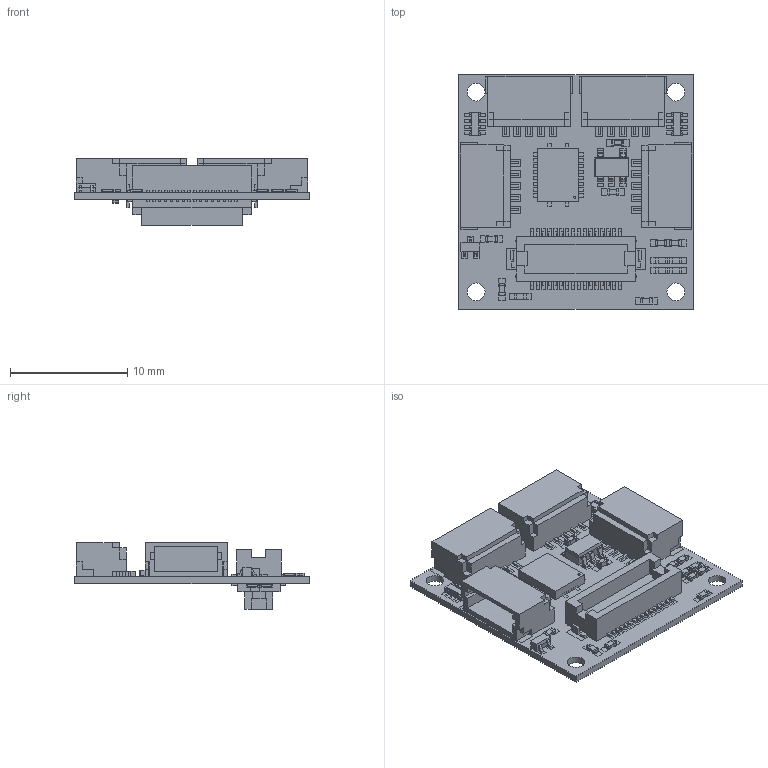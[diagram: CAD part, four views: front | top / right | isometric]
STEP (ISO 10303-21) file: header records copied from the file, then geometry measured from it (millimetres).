
FILE_DESCRIPTION(('FreeCAD Model'),'2;1');
FILE_NAME('/home/devy/MEGA/TinyCircuits/Assets/BoardsANDBoardModels_2/Shields/TinyCircuits-TinyShield-Wireling_Adapter-ASD2022/cad/TinyShield_ADAPTER_ASD2022_REV5-STEP.step', '2020-07-22T13:52:56',('Author'),(''), 'Open CASCADE STEP processor 7.4','FreeCAD','Unknown');
FILE_SCHEMA(('AUTOMOTIVE_DESIGN { 1 0 10303 214 1 1 1 1 }'));
Products named in the file (1): TinyShield_ADAPTER_ASD2022_REV5-STEP
Bounding box: 20 x 20 x 5.7 mm (x, y, z)
Volume: 806.1 mm3; surface area: 3308.7 mm2
Topology: 464 solids, 464 shells, 4351 faces, 10227 edges, 7088 vertices
Faces by surface type: plane 4190, cylinder 129, revolution 16, sphere 16
Full cylindrical faces by diameter (mm): 0.5 x4, 0.652 x8, 1.502 x8
Entity records: 282822 total; most frequent: CARTESIAN_POINT 42668, DIRECTION 38883, LINE 29147, VECTOR 29147, ORIENTED_EDGE 19814, PCURVE 19814, DEFINITIONAL_REPRESENTATION 19814, EDGE_CURVE 9907
